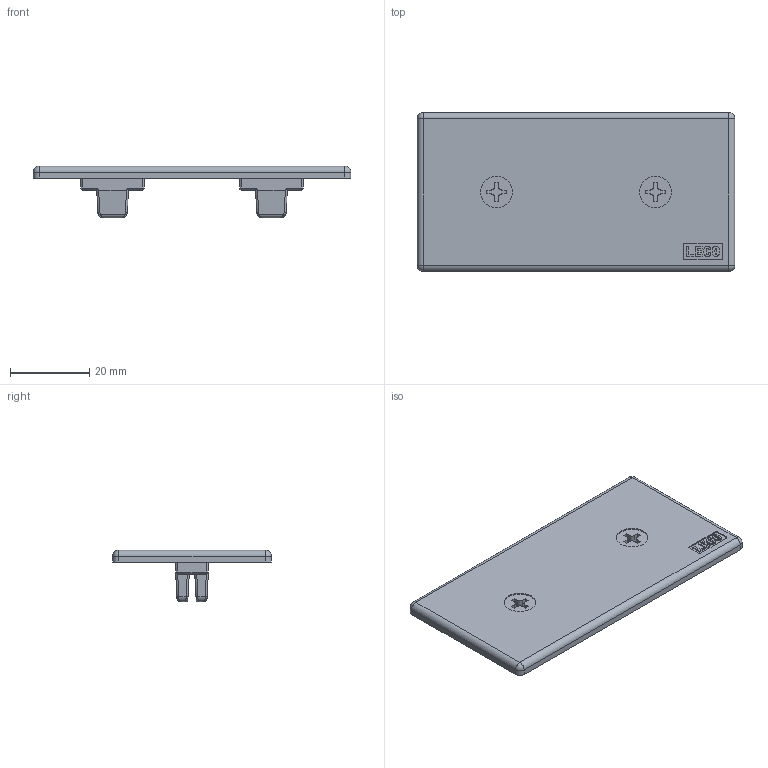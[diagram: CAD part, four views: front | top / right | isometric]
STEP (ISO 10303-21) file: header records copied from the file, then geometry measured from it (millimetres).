
FILE_DESCRIPTION(('STEP AP214'),'1');
FILE_NAME('EP48.stp','2017-07-24T04:58:05',(' '),(' '),'Spatial InterOp 3D',' ',' ');
FILE_SCHEMA(('automotive_design'));
Length unit declared in the file: millimetre
Products named in the file (1): EP48
Bounding box: 80 x 40 x 13 mm (x, y, z)
Volume: 10083.6 mm3; surface area: 8198.9 mm2
Topology: 1 solids, 1 shells, 269 faces, 698 edges, 428 vertices
Faces by surface type: plane 123, cylinder 114, bspline 24, sphere 8
Full cylindrical faces by diameter (mm): 8 x2
Entity records: 12442 total; most frequent: CARTESIAN_POINT 3746, DIRECTION 1392, ORIENTED_EDGE 1360, EDGE_CURVE 680, AXIS2_PLACEMENT_3D 490, VERTEX_POINT 428, LINE 412, VECTOR 412
